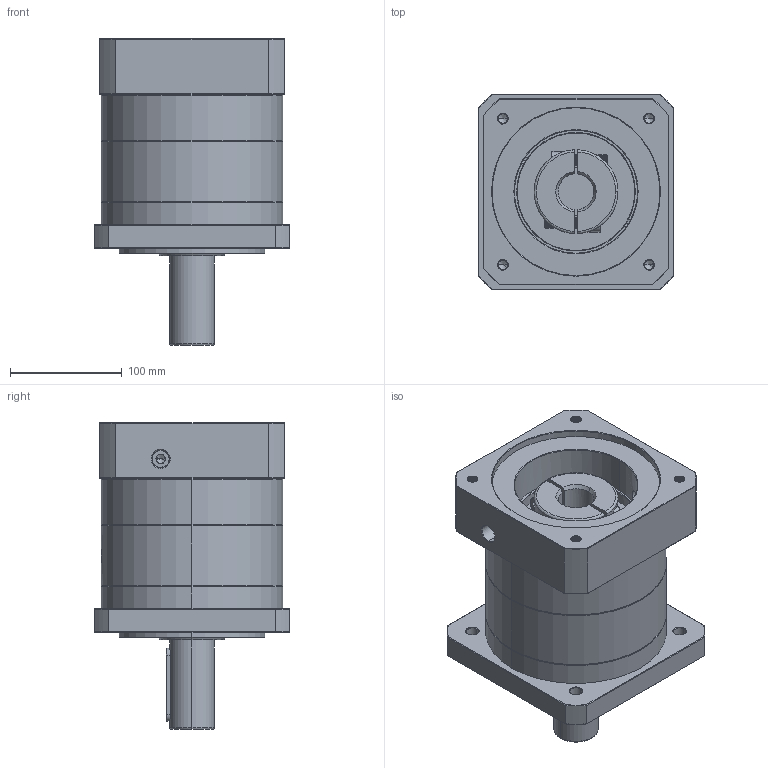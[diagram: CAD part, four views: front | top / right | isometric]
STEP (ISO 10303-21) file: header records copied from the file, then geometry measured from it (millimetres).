
FILE_DESCRIPTION (( 'STEP AP214' ), '1' );
FILE_NAME ('ZF160A-D40-L1-P2-32-150-185-M10.step', '2023-09-03T06:57:51', ( '' ), ( '' ), 'SwSTEP 2.0', 'SolidWorks 2016', '' );
FILE_SCHEMA (( 'AUTOMOTIVE_DESIGN' ));
Length unit declared in the file: millimetre
Products named in the file (1): ZF160A-D40-L1-P2-32-150-185-M10
Bounding box: 175 x 175 x 274.2 mm (x, y, z)
Volume: 4042272.9 mm3; surface area: 328595.9 mm2
Topology: 6 solids, 6 shells, 2205 faces, 5961 edges, 3861 vertices
Faces by surface type: plane 1017, cylinder 429, bspline 411, cone 326, torus 22
Entity records: 125549 total; most frequent: CARTESIAN_POINT 51050, ORIENTED_EDGE 11862, DIRECTION 8655, EDGE_CURVE 5931, VERTEX_POINT 3861, VECTOR 3071, LINE 3071, AXIS2_PLACEMENT_3D 2792
